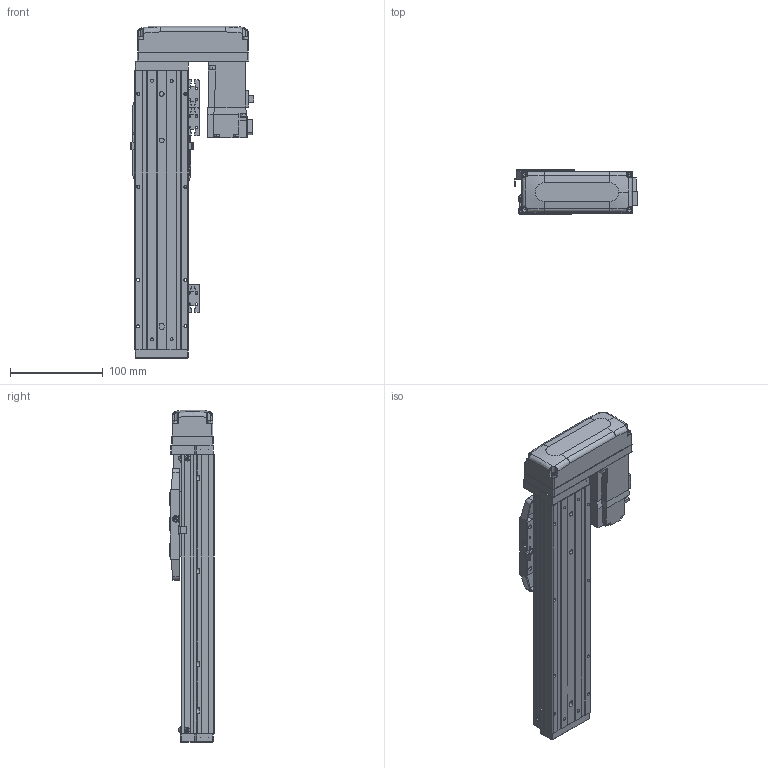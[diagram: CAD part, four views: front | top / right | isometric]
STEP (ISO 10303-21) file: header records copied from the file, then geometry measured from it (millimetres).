
FILE_DESCRIPTION (( 'STEP AP203' ), '1' );
FILE_NAME ('CTHA50-150-BL-M10-C4L.step', '2022-03-19T05:58:58', ( '微软用户' ), ( '微软中国' ), 'SwSTEP 2.0', 'SolidWorks 2020', '' );
FILE_SCHEMA (( 'CONFIG_CONTROL_DESIGN' ));
Length unit declared in the file: millimetre
Products named in the file (20): EE_SX911P_R; HG-KR13（三菱）; GBT 70.1-M3×15; GBT77-2000 M3×3; CTHA50-002; CTHA50-150-BL-M10-C4L; GBT 70.1-M3℅6; CTHA50-030; KTHA50-001_300; CTHA60-017; CTHA50-031; KTHA50-004; GBT 70.1-M4×12; GBT 70.3-M3℅6; KTHA50-005; CTHA60-016; CTHA50-015-2_CTHA60-015-2; GB¨uT 70.2-M3¡Á6_M3¡Á6; CTHA60-021; CTHA60-033
Assembly tree (60 placements, depth 2):
  CTHA50-150-BL-M10-C4L
    KTHA50-001_300
    KTHA50-004
    KTHA50-005
    GB¨uT 70.2-M3¡Á6_M3¡Á6  x10
    EE_SX911P_R  x3
    GBT77-2000 M3×3  x6
    GBT 70.1-M3℅6  x6
    CTHA60-017  x3
    GBT 70.1-M4×12  x10
    CTHA60-016  x2
    CTHA60-021  x2
    HG-KR13（三菱）
    CTHA50-002
    CTHA50-030  x2
    CTHA50-031
    GBT 70.3-M3℅6  x4
    CTHA50-015-2_CTHA60-015-2
    CTHA60-033
    GBT 70.1-M3×15  x4
Bounding box: 132.6 x 48 x 357 mm (x, y, z)
Volume: 872802.2 mm3; surface area: 229810.8 mm2
Topology: 62 solids, 62 shells, 2473 faces, 5855 edges, 3582 vertices
Faces by surface type: plane 1398, cylinder 570, cone 347, torus 108, bspline 26, sphere 24
Entity records: 41393 total; most frequent: CARTESIAN_POINT 7659, DIRECTION 6425, ORIENTED_EDGE 6218, EDGE_CURVE 3109, LINE 2169, VECTOR 2169, AXIS2_PLACEMENT_3D 2128, VERTEX_POINT 1956
